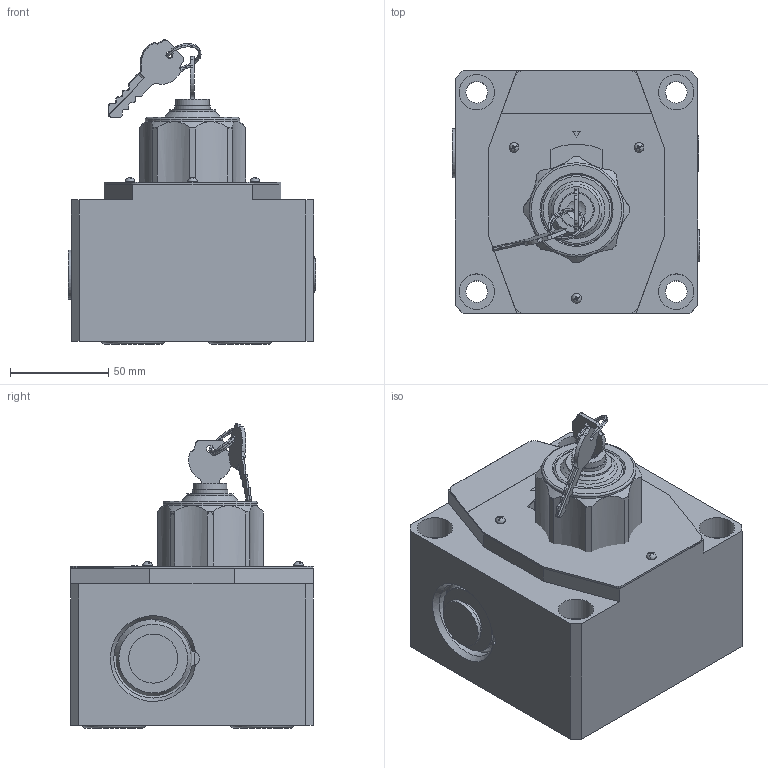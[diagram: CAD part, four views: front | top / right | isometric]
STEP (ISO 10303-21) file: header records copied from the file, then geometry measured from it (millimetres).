
FILE_DESCRIPTION(/* description */ (''),/* implementation_level */ '2;1');
FILE_NAME(/* name */ '2FRM16-2XJ调速阀（不带行程限制器）.prt.stp',/* time_stamp */ '2022-03-30T19:56:18+08:00',/* author */ (''),/* organization */ (''),/* preprocessor_version */ 'ST-DEVELOPER v16.7',/* originating_system */ 'SIEMENS PLM Software NX 12.0',/* authorisation */ '');
FILE_SCHEMA (('AUTOMOTIVE_DESIGN { 1 0 10303 214 3 1 1 1 }'));
Products named in the file (1): 2FRM16-2XJ调速阀（不带行程限制器）
Bounding box: 125.96 x 123.5 x 154.9 mm (x, y, z)
Volume: 1158203 mm3; surface area: 171477.9 mm2
Topology: 26 solids, 31 shells, 1007 faces, 2700 edges, 1768 vertices
Faces by surface type: cylinder 378, plane 327, cone 124, extrusion 84, torus 61, bspline 23, sphere 10
Full cylindrical faces by diameter (mm): 2 x1, 2.2 x3, 3 x1, 3.2 x3, 4.25 x1, 6 x1, 11 x4, 12 x1, 16 x1, 17 x2, 18 x7, 18.5 x5, 20 x1, 22.5 x1, 23.6 x1, 25 x3, 29 x1, 31.5 x2, 33 x1, 34.8 x1, 35 x1, 36 x2, 39 x1, 40.2 x1, 45 x1, 48 x1
Entity records: 54355 total; most frequent: CARTESIAN_POINT 29921, ORIENTED_EDGE 5032, DIRECTION 4605, EDGE_CURVE 2516, AXIS2_PLACEMENT_3D 1765, VERTEX_POINT 1719, EDGE_LOOP 1172, VECTOR 1075
